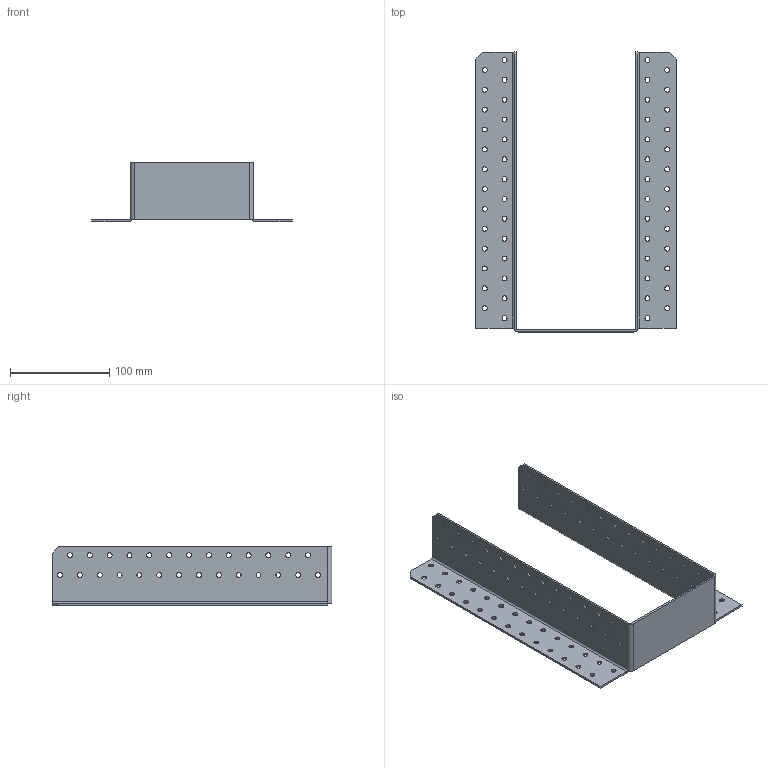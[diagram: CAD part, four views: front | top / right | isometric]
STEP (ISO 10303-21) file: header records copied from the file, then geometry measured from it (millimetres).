
FILE_DESCRIPTION (( 'STEP AP203' ), '1' );
FILE_NAME ('405062.STEP', '2021-04-17T16:27:48', ( '' ), ( '' ), 'SwSTEP 2.0', 'SolidWorks 2013', '' );
FILE_SCHEMA (( 'CONFIG_CONTROL_DESIGN' ));
Length unit declared in the file: millimetre
Products named in the file (1): 405062
Bounding box: 202 x 282 x 60 mm (x, y, z)
Volume: 118768.3 mm3; surface area: 125405.2 mm2
Topology: 1 solids, 1 shells, 260 faces, 744 edges, 486 vertices
Faces by surface type: cylinder 224, plane 36
Entity records: 9227 total; most frequent: DIRECTION 1716, CARTESIAN_POINT 1491, ORIENTED_EDGE 1488, EDGE_CURVE 744, AXIS2_PLACEMENT_3D 711, VERTEX_POINT 486, EDGE_LOOP 476, CIRCLE 450
